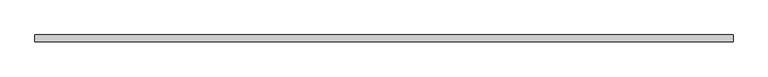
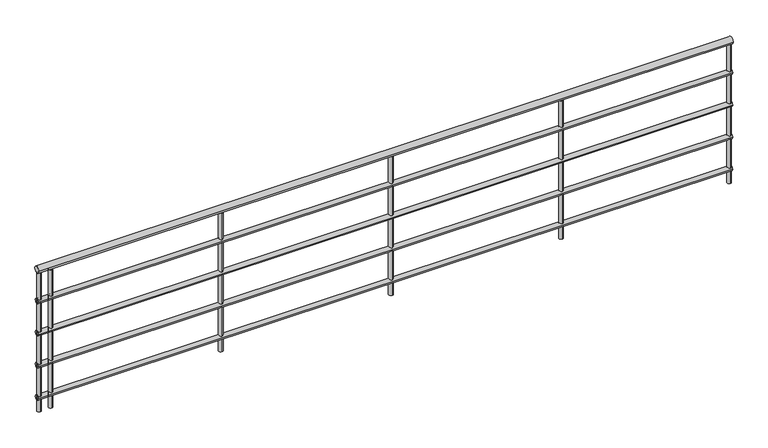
"""IFC4 building model written with IfcOpenShell, lengths in millimetres: railing geometry, 900mm 管."""

from ifc_helpers import new_model, si_unit, point, frame, frame_2d, origin, origin_with_axes, place, context, project, spatial, circle_curve, trimmed, segment, composite_curve, outline, extrude, source, transform, mapped, element, save


def railing_6b8881b0(model_context):
    return source(origin(), model_context, "Body", "SweptSolid", [
        extrude(outline(composite_curve([segment(trimmed(circle_curve(frame_2d((-4569.1637817, 880.0)), 20.0), [point((-4589.1637817, 880.0))], [point((-4549.1637817, 880.0))], False, "CARTESIAN"), True, "CONTINUOUS"), segment(trimmed(circle_curve(frame_2d((-4569.1637817, 880.0)), 20.0), [point((-4549.1637817, 880.0))], [point((-4589.1637817, 880.0))], False, "CARTESIAN"), True, "CONTINUOUS")], self_intersect=False)), frame((3172.9445117, 0.0, 0.0), z_axis=(1.0, 0.0, 0.0), x_axis=(0.0, 1.0, 0.0)), (0.0, 0.0, 1.0), 4080.0),
        extrude(outline(composite_curve([segment(trimmed(circle_curve(frame_2d((-4569.1637817, 685.0)), 15.0), [point((-4584.1637817, 685.0))], [point((-4554.1637817, 685.0))], False, "CARTESIAN"), True, "CONTINUOUS"), segment(trimmed(circle_curve(frame_2d((-4569.1637817, 685.0)), 15.0), [point((-4554.1637817, 685.0))], [point((-4584.1637817, 685.0))], False, "CARTESIAN"), True, "CONTINUOUS")], self_intersect=False)), frame((3172.9445117, 0.0, 0.0), z_axis=(1.0, 0.0, 0.0), x_axis=(0.0, 1.0, 0.0)), (0.0, 0.0, 1.0), 4080.0),
        extrude(outline(composite_curve([segment(trimmed(circle_curve(frame_2d((-4569.1637817, 485.0)), 15.0), [point((-4584.1637817, 485.0))], [point((-4554.1637817, 485.0))], False, "CARTESIAN"), True, "CONTINUOUS"), segment(trimmed(circle_curve(frame_2d((-4569.1637817, 485.0)), 15.0), [point((-4554.1637817, 485.0))], [point((-4584.1637817, 485.0))], False, "CARTESIAN"), True, "CONTINUOUS")], self_intersect=False)), frame((3172.9445117, 0.0, 0.0), z_axis=(1.0, 0.0, 0.0), x_axis=(0.0, 1.0, 0.0)), (0.0, 0.0, 1.0), 4080.0),
        extrude(outline(composite_curve([segment(trimmed(circle_curve(frame_2d((-4569.1637817, 285.0)), 15.0), [point((-4584.1637817, 285.0))], [point((-4554.1637817, 285.0))], False, "CARTESIAN"), True, "CONTINUOUS"), segment(trimmed(circle_curve(frame_2d((-4569.1637817, 285.0)), 15.0), [point((-4554.1637817, 285.0))], [point((-4584.1637817, 285.0))], False, "CARTESIAN"), True, "CONTINUOUS")], self_intersect=False)), frame((3172.9445117, 0.0, 0.0), z_axis=(1.0, 0.0, 0.0), x_axis=(0.0, 1.0, 0.0)), (0.0, 0.0, 1.0), 4080.0),
        extrude(outline(composite_curve([segment(trimmed(circle_curve(frame_2d((-4569.1637817, 85.0)), 15.0), [point((-4584.1637817, 85.0))], [point((-4554.1637817, 85.0))], False, "CARTESIAN"), True, "CONTINUOUS"), segment(trimmed(circle_curve(frame_2d((-4569.1637817, 85.0)), 15.0), [point((-4554.1637817, 85.0))], [point((-4584.1637817, 85.0))], False, "CARTESIAN"), True, "CONTINUOUS")], self_intersect=False)), frame((3172.9445117, 0.0, 0.0), z_axis=(1.0, 0.0, 0.0), x_axis=(0.0, 1.0, 0.0)), (0.0, 0.0, 1.0), 4080.0),
        extrude(outline(composite_curve([segment(trimmed(circle_curve(frame_2d((3252.9445117, -4569.1637817)), 12.5), [point((3252.9445117, -4581.6637817))], [point((3252.9445117, -4556.6637817))], False, "CARTESIAN"), True, "CONTINUOUS"), segment(trimmed(circle_curve(frame_2d((3252.9445117, -4569.1637817)), 12.5), [point((3252.9445117, -4556.6637817))], [point((3252.9445117, -4581.6637817))], False, "CARTESIAN"), True, "CONTINUOUS")], self_intersect=False)), origin_with_axes(), (0.0, 0.0, 1.0), 860.0),
        extrude(outline(composite_curve([segment(trimmed(circle_curve(frame_2d((4252.9445117, -4569.1637817)), 12.5), [point((4252.9445117, -4581.6637817))], [point((4252.9445117, -4556.6637817))], False, "CARTESIAN"), True, "CONTINUOUS"), segment(trimmed(circle_curve(frame_2d((4252.9445117, -4569.1637817)), 12.5), [point((4252.9445117, -4556.6637817))], [point((4252.9445117, -4581.6637817))], False, "CARTESIAN"), True, "CONTINUOUS")], self_intersect=False)), origin_with_axes(), (0.0, 0.0, 1.0), 860.0),
        extrude(outline(composite_curve([segment(trimmed(circle_curve(frame_2d((5252.9445117, -4569.1637817)), 12.5), [point((5252.9445117, -4581.6637817))], [point((5252.9445117, -4556.6637817))], False, "CARTESIAN"), True, "CONTINUOUS"), segment(trimmed(circle_curve(frame_2d((5252.9445117, -4569.1637817)), 12.5), [point((5252.9445117, -4556.6637817))], [point((5252.9445117, -4581.6637817))], False, "CARTESIAN"), True, "CONTINUOUS")], self_intersect=False)), origin_with_axes(), (0.0, 0.0, 1.0), 860.0),
        extrude(outline(composite_curve([segment(trimmed(circle_curve(frame_2d((6252.9445117, -4569.1637817)), 12.5), [point((6252.9445117, -4581.6637817))], [point((6252.9445117, -4556.6637817))], False, "CARTESIAN"), True, "CONTINUOUS"), segment(trimmed(circle_curve(frame_2d((6252.9445117, -4569.1637817)), 12.5), [point((6252.9445117, -4556.6637817))], [point((6252.9445117, -4581.6637817))], False, "CARTESIAN"), True, "CONTINUOUS")], self_intersect=False)), origin_with_axes(), (0.0, 0.0, 1.0), 860.0),
        extrude(outline(composite_curve([segment(trimmed(circle_curve(frame_2d((3185.4445117, -4569.1637817)), 12.5), [point((3185.4445117, -4581.6637817))], [point((3185.4445117, -4556.6637817))], False, "CARTESIAN"), True, "CONTINUOUS"), segment(trimmed(circle_curve(frame_2d((3185.4445117, -4569.1637817)), 12.5), [point((3185.4445117, -4556.6637817))], [point((3185.4445117, -4581.6637817))], False, "CARTESIAN"), True, "CONTINUOUS")], self_intersect=False)), origin_with_axes(), (0.0, 0.0, 1.0), 860.0),
        extrude(outline(composite_curve([segment(trimmed(circle_curve(frame_2d((7240.4445117, -4569.1637817)), 12.5), [point((7240.4445117, -4581.6637817))], [point((7240.4445117, -4556.6637817))], False, "CARTESIAN"), True, "CONTINUOUS"), segment(trimmed(circle_curve(frame_2d((7240.4445117, -4569.1637817)), 12.5), [point((7240.4445117, -4556.6637817))], [point((7240.4445117, -4581.6637817))], False, "CARTESIAN"), True, "CONTINUOUS")], self_intersect=False)), origin_with_axes(), (0.0, 0.0, 1.0), 860.0),
    ])


if __name__ == "__main__":
    model = new_model("IFC4")
    model_context = context("Model", 3, world=origin())
    ifc_project = project(units=[si_unit("LENGTHUNIT", "METRE", prefix="MILLI")], contexts=[model_context])
    site = spatial("IfcSite", under=ifc_project)
    building = spatial("IfcBuilding", under=site)
    placement = place(None, origin())
    railing_shape = railing_6b8881b0(model_context)
    element("IfcRailing", 1, ObjectType="900mm 管", at=placement, inside=building, context=model_context, shape_type="MappedRepresentation", body=[
        mapped(railing_shape, transform((0.0, 0.0, 0.0), x_axis=(1.0, 0.0, 0.0), y_axis=(0.0, 1.0, 0.0), z_axis=(0.0, 0.0, 1.0))),
    ])
    save(model, "model.ifc")
